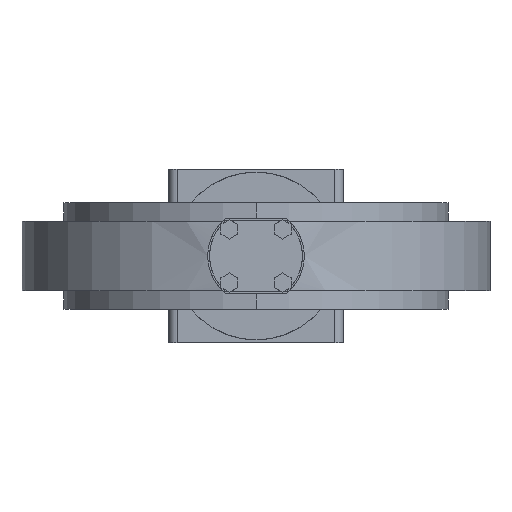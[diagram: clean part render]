
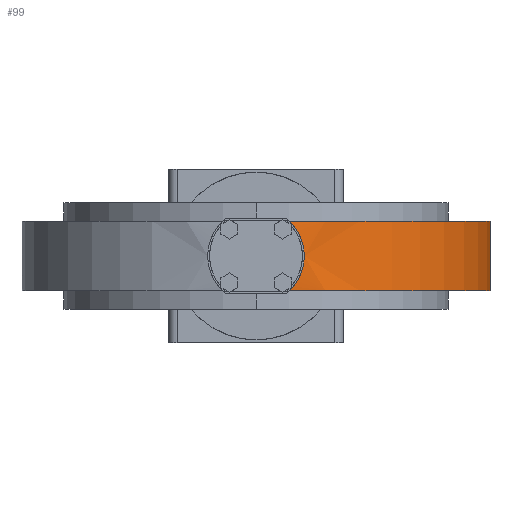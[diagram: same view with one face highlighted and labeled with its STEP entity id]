
A CAD part, front view. The second image highlights one B-rep face of the part: STEP entity #99.
In plain terms, the highlighted cylindrical face has radius 335 mm (diameter 670 mm), a partial arc.
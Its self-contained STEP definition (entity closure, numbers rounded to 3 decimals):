
#99 = ADVANCED_FACE( '', ( #385 ), #386, .T. );
#385 = FACE_OUTER_BOUND( '', #979, .T. );
#386 = CYLINDRICAL_SURFACE( '', #980, 335. );
#979 = EDGE_LOOP( '', ( #1706, #1707, #1708, #1709 ) );
#980 = AXIS2_PLACEMENT_3D( '', #1710, #1711, #1712 );
#1706 = ORIENTED_EDGE( '', *, *, #3793, .F. );
#1707 = ORIENTED_EDGE( '', *, *, #3794, .F. );
#1708 = ORIENTED_EDGE( '', *, *, #3795, .T. );
#1709 = ORIENTED_EDGE( '', *, *, #3796, .T. );
#1710 = CARTESIAN_POINT( '', ( 0., 0., 50. ) );
#1711 = DIRECTION( '', ( 0., 0., 1. ) );
#1712 = DIRECTION( '', ( 1., 0., 0. ) );
#3793 = EDGE_CURVE( '', #4590, #4591, #4592, .T. );
#3794 = EDGE_CURVE( '', #4593, #4590, #4594, .T. );
#3795 = EDGE_CURVE( '', #4593, #4595, #4596, .T. );
#3796 = EDGE_CURVE( '', #4595, #4591, #4597, .T. );
#4590 = VERTEX_POINT( '', #5870 );
#4591 = VERTEX_POINT( '', #5871 );
#4592 = LINE( '', #5872, #5873 );
#4593 = VERTEX_POINT( '', #5874 );
#4594 = CIRCLE( '', #5875, 335. );
#4595 = VERTEX_POINT( '', #5876 );
#4596 = B_SPLINE_CURVE_WITH_KNOTS( '', 3, ( #5877, #5878, #5879, #5880, #5881, #5882, #5883, #5884, #5885, #5886, #5887, #5888, #5889, #5890, #5891, #5892, #5893, #5894, #5895, #5896, #5897, #5898, #5899, #5900, #5901, #5902, #5903, #5904, #5905, #5906, #5907, #5908, #5909, #5910, #5911, #5912, #5913, #5914, #5915 ), .UNSPECIFIED., .F., .F., ( 4, 2, 2, 2, 2, 2, 2, 2, 2, 3, 2, 2, 2, 2, 2, 2, 2, 2, 4 ), ( -53.88, -52.145, -45.627, -39.109, -32.591, -26.073, -19.554, -13.036, -6.518, 0., 6.518, 13.036, 19.554, 26.073, 32.591, 39.109, 45.627, 52.145, 53.88 ), .UNSPECIFIED. );
#4597 = CIRCLE( '', #5916, 335. );
#5870 = CARTESIAN_POINT( '', ( 335., 0., 50. ) );
#5871 = CARTESIAN_POINT( '', ( 335., 0., -50. ) );
#5872 = CARTESIAN_POINT( '', ( 335., 0., 0. ) );
#5873 = VECTOR( '', #8215, 1. );
#5874 = CARTESIAN_POINT( '', ( 47.55, -331.608, 50. ) );
#5875 = AXIS2_PLACEMENT_3D( '', #8216, #8217, #8218 );
#5876 = CARTESIAN_POINT( '', ( 47.55, -331.608, -50. ) );
#5877 = CARTESIAN_POINT( '', ( 47.55, -331.608, 50. ) );
#5878 = CARTESIAN_POINT( '', ( 47.97, -331.548, 49.6 ) );
#5879 = CARTESIAN_POINT( '', ( 48.384, -331.488, 49.197 ) );
#5880 = CARTESIAN_POINT( '', ( 50.318, -331.203, 47.262 ) );
#5881 = CARTESIAN_POINT( '', ( 51.801, -330.974, 45.636 ) );
#5882 = CARTESIAN_POINT( '', ( 54.633, -330.518, 42.205 ) );
#5883 = CARTESIAN_POINT( '', ( 55.982, -330.292, 40.4 ) );
#5884 = CARTESIAN_POINT( '', ( 58.513, -329.853, 36.638 ) );
#5885 = CARTESIAN_POINT( '', ( 59.695, -329.64, 34.681 ) );
#5886 = CARTESIAN_POINT( '', ( 61.864, -329.24, 30.644 ) );
#5887 = CARTESIAN_POINT( '', ( 62.852, -329.052, 28.564 ) );
#5888 = CARTESIAN_POINT( '', ( 64.615, -328.711, 24.316 ) );
#5889 = CARTESIAN_POINT( '', ( 65.39, -328.557, 22.146 ) );
#5890 = CARTESIAN_POINT( '', ( 66.717, -328.29, 17.752 ) );
#5891 = CARTESIAN_POINT( '', ( 67.269, -328.177, 15.527 ) );
#5892 = CARTESIAN_POINT( '', ( 68.145, -327.996, 11.066 ) );
#5893 = CARTESIAN_POINT( '', ( 68.469, -327.928, 8.828 ) );
#5894 = CARTESIAN_POINT( '', ( 68.897, -327.839, 4.382 ) );
#5895 = CARTESIAN_POINT( '', ( 69., -327.817, 2.173 ) );
#5896 = CARTESIAN_POINT( '', ( 69., -327.817, 0. ) );
#5897 = CARTESIAN_POINT( '', ( 69., -327.817, -2.173 ) );
#5898 = CARTESIAN_POINT( '', ( 68.897, -327.839, -4.382 ) );
#5899 = CARTESIAN_POINT( '', ( 68.469, -327.928, -8.828 ) );
#5900 = CARTESIAN_POINT( '', ( 68.145, -327.996, -11.066 ) );
#5901 = CARTESIAN_POINT( '', ( 67.269, -328.177, -15.527 ) );
#5902 = CARTESIAN_POINT( '', ( 66.717, -328.29, -17.752 ) );
#5903 = CARTESIAN_POINT( '', ( 65.39, -328.557, -22.146 ) );
#5904 = CARTESIAN_POINT( '', ( 64.615, -328.711, -24.316 ) );
#5905 = CARTESIAN_POINT( '', ( 62.852, -329.052, -28.564 ) );
#5906 = CARTESIAN_POINT( '', ( 61.864, -329.24, -30.644 ) );
#5907 = CARTESIAN_POINT( '', ( 59.695, -329.64, -34.681 ) );
#5908 = CARTESIAN_POINT( '', ( 58.513, -329.853, -36.638 ) );
#5909 = CARTESIAN_POINT( '', ( 55.982, -330.292, -40.4 ) );
#5910 = CARTESIAN_POINT( '', ( 54.633, -330.518, -42.205 ) );
#5911 = CARTESIAN_POINT( '', ( 51.801, -330.974, -45.636 ) );
#5912 = CARTESIAN_POINT( '', ( 50.318, -331.203, -47.262 ) );
#5913 = CARTESIAN_POINT( '', ( 48.384, -331.488, -49.197 ) );
#5914 = CARTESIAN_POINT( '', ( 47.97, -331.548, -49.6 ) );
#5915 = CARTESIAN_POINT( '', ( 47.55, -331.608, -50. ) );
#5916 = AXIS2_PLACEMENT_3D( '', #8219, #8220, #8221 );
#8215 = DIRECTION( '', ( 0., 0., -1. ) );
#8216 = CARTESIAN_POINT( '', ( 0., 0., 50. ) );
#8217 = DIRECTION( '', ( 0., 0., 1. ) );
#8218 = DIRECTION( '', ( 1., 0., 0. ) );
#8219 = CARTESIAN_POINT( '', ( 0., 0., -50. ) );
#8220 = DIRECTION( '', ( 0., 0., 1. ) );
#8221 = DIRECTION( '', ( 1., 0., 0. ) );
